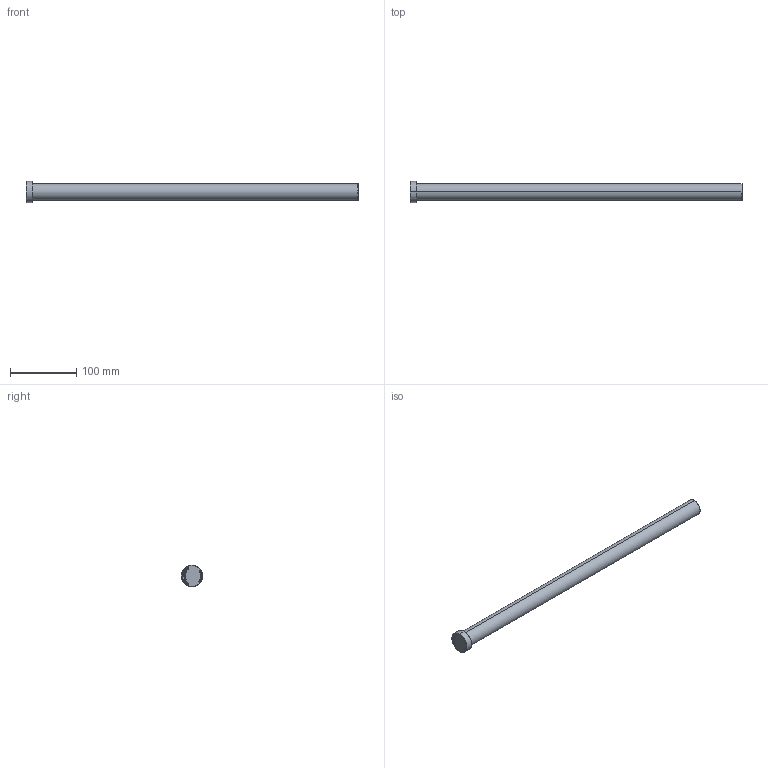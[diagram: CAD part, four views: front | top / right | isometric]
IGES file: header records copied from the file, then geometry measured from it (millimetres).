
Start section: SolidWorks IGES file using analytic representation for surfaces
Global section: file name: D:\TRIVECTOR\2026\08_Agosto\PR - PINO DE RETORNO (CATÁLOGO)\PR250500.IGS; native system: SolidWorks 2024; preprocessor: SolidWorks 2024; author: Usuario; date: 260822.151922; units: millimetre
Bounding box: 502 x 32 x 32 mm (x, y, z)
Surface area: 41407.2 mm2 (no closed solid volume)
Topology: 0 solids, 0 shells, 402 faces, 4967 edges, 4965 vertices
Faces by surface type: bspline 382, revolution 20
